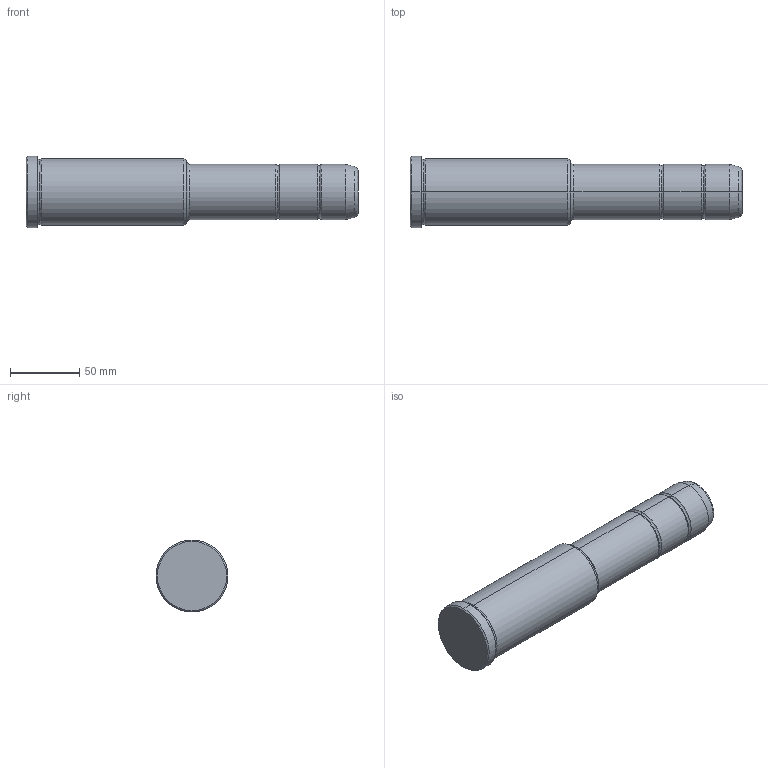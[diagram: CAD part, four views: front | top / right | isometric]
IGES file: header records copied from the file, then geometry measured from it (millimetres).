
Start section: START RECORD GO HERE.
Global section: file name: 351-40X116X240.igs; native system: DASSAULT SYSTEMES CATIA V5 R20 - www.3ds.com; preprocessor: CATIA Version 5 Release 20 ; author: Utente; organization: NB04-ASUS; date: 20211007.151821; units: millimetre
Bounding box: 240 x 52 x 52 mm (x, y, z)
Surface area: 36870.6 mm2 (no closed solid volume)
Topology: 0 solids, 0 shells, 36 faces, 204 edges, 204 vertices
Faces by surface type: revolution 32, plane 4
